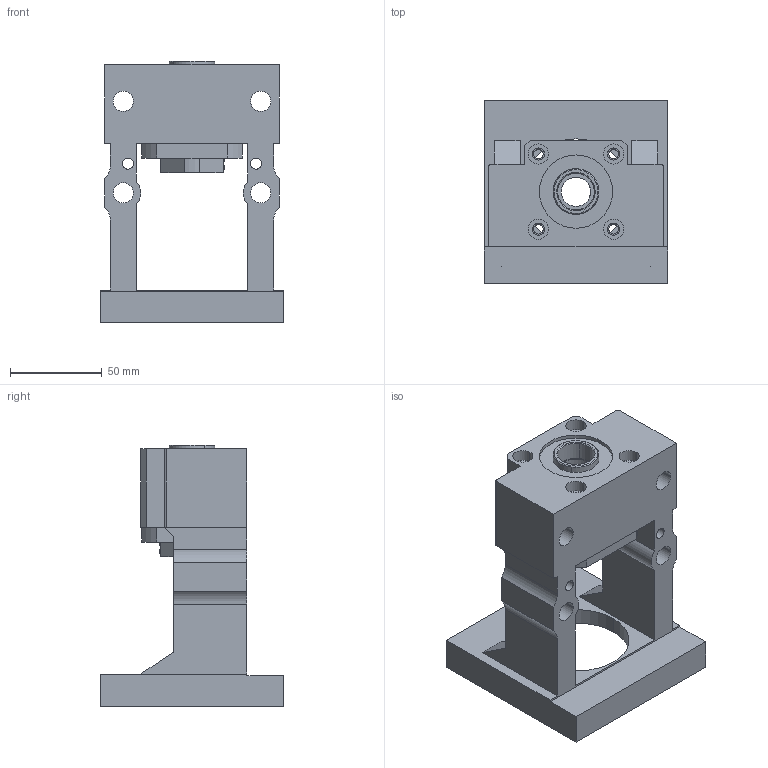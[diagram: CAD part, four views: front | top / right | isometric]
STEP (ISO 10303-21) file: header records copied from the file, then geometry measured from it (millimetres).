
FILE_DESCRIPTION((''),'2;1');
FILE_NAME('ASM0007_ASM','2019-11-06T',('ASUS'),(''),'PRO/ENGINEER BY PARAMETRIC TECHNOLOGY CORPORATION, 2010280','PRO/ENGINEER BY PARAMETRIC TECHNOLOGY CORPORATION, 2010280','');
FILE_SCHEMA(('CONFIG_CONTROL_DESIGN'));
Length unit declared in the file: millimetre
Products named in the file (7): PRT0024; PRT0025; PRT0026; PRT0027; MBCF20-Y_ASM_ASM; M100Y-EK20-C_ASM_ASM; ASM0007_ASM
Assembly tree (7 placements, depth 4):
  ASM0007_ASM
    M100Y-EK20-C_ASM_ASM
      MBCF20-Y_ASM_ASM
        PRT0024  x2
        PRT0025
        PRT0026
        PRT0027
Bounding box: 100 x 100 x 143 mm (x, y, z)
Volume: 382414.1 mm3; surface area: 94649.6 mm2
Topology: 5 solids, 9 shells, 206 faces, 535 edges, 353 vertices
Faces by surface type: cylinder 110, plane 72, cone 24
Entity records: 6408 total; most frequent: CARTESIAN_POINT 1171, DIRECTION 1160, ORIENTED_EDGE 982, EDGE_CURVE 499, AXIS2_PLACEMENT_3D 455, VERTEX_POINT 337, EDGE_LOOP 258, VECTOR 250
